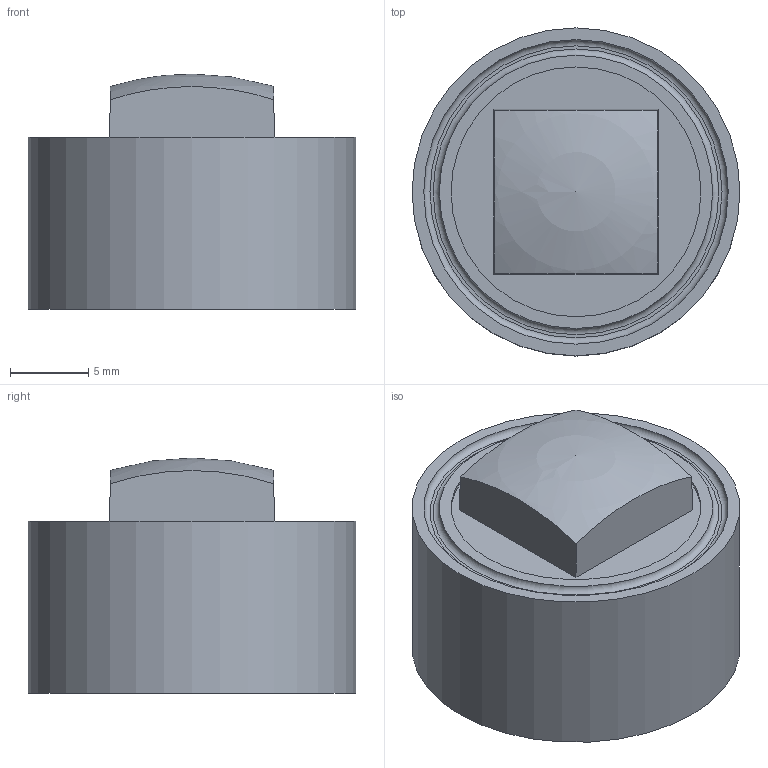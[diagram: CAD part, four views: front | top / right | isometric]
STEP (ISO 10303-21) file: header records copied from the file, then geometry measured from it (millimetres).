
FILE_DESCRIPTION(/* description */ (''),/* implementation_level */ '2;1');
FILE_NAME(/* name */ 'C:\Users\cgh.MEC\Desktop\Traceparts - 3D programserie\STEP filer\SMD\5GSH9+1TS+1TW.stp',/* time_stamp */ '2016-02-26T09:41:07+01:00',/* author */ ('cgh'),/* organization */ (''),/* preprocessor_version */ 'ST-DEVELOPER v15.2',/* originating_system */ 'Autodesk Inventor 2014',/* authorisation */ '');
FILE_SCHEMA (('AUTOMOTIVE_DESIGN { 1 0 10303 214 3 1 1 }'));
Length unit declared in the file: centimetre
Products named in the file (1): cgh
Bounding box: 21 x 21 x 15.1 mm (x, y, z)
Volume: 1949.6 mm3; surface area: 3678.8 mm2
Topology: 1 solids, 1 shells, 1036 faces, 2929 edges, 1920 vertices
Faces by surface type: plane 643, cylinder 153, bspline 140, torus 59, cone 35, sphere 6
Full cylindrical faces by diameter (mm): 0.9 x1, 1 x3, 2.8 x1, 4.73 x1, 6.5 x1, 7.2 x1, 7.44 x1, 16 x1, 18 x1, 21 x1
Entity records: 37311 total; most frequent: CARTESIAN_POINT 10260, ORIENTED_EDGE 5790, DIRECTION 4863, EDGE_CURVE 2887, VERTEX_POINT 1908, LINE 1807, VECTOR 1807, AXIS2_PLACEMENT_3D 1528
